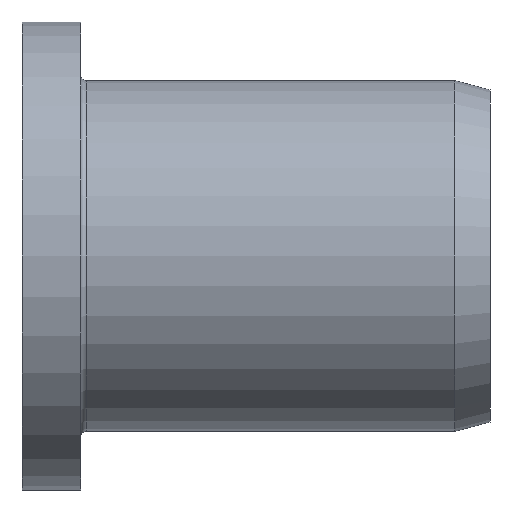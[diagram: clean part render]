
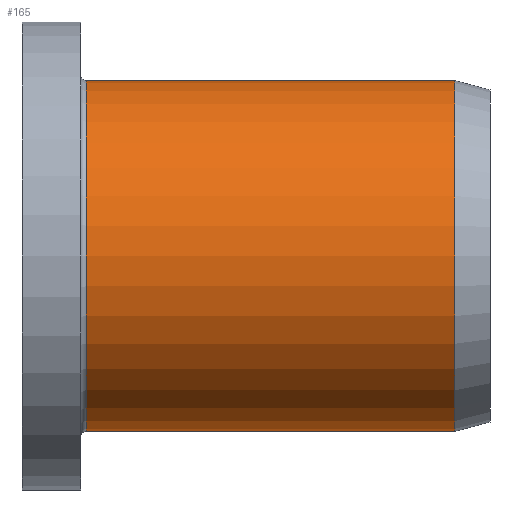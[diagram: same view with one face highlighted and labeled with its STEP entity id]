
A CAD part, front view. The second image highlights one B-rep face of the part: STEP entity #165.
In plain terms, the highlighted cylindrical face has radius 15 mm (diameter 30 mm), a full revolution.
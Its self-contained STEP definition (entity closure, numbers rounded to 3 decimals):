
#23=LINE('',#310,#27);
#27=VECTOR('',#264,15.);
#31=CYLINDRICAL_SURFACE('',#209,15.);
#39=FACE_OUTER_BOUND('',#51,.T.);
#51=EDGE_LOOP('',(#133,#134,#135,#136,#137));
#67=CIRCLE('',#207,15.);
#68=CIRCLE('',#208,15.);
#69=CIRCLE('',#210,15.);
#80=VERTEX_POINT('',#302);
#81=VERTEX_POINT('',#304);
#82=VERTEX_POINT('',#308);
#98=EDGE_CURVE('',#81,#80,#67,.T.);
#99=EDGE_CURVE('',#80,#81,#68,.T.);
#100=EDGE_CURVE('',#82,#82,#69,.T.);
#101=EDGE_CURVE('',#82,#81,#23,.T.);
#133=ORIENTED_EDGE('',*,*,#100,.F.);
#134=ORIENTED_EDGE('',*,*,#101,.T.);
#135=ORIENTED_EDGE('',*,*,#98,.T.);
#136=ORIENTED_EDGE('',*,*,#99,.T.);
#137=ORIENTED_EDGE('',*,*,#101,.F.);
#165=ADVANCED_FACE('',(#39),#31,.T.);
#207=AXIS2_PLACEMENT_3D('',#305,#256,#257);
#208=AXIS2_PLACEMENT_3D('',#306,#258,#259);
#209=AXIS2_PLACEMENT_3D('',#307,#260,#261);
#210=AXIS2_PLACEMENT_3D('',#309,#262,#263);
#256=DIRECTION('center_axis',(1.,0.,0.));
#257=DIRECTION('ref_axis',(0.,0.,-1.));
#258=DIRECTION('center_axis',(1.,0.,0.));
#259=DIRECTION('ref_axis',(0.,0.,-1.));
#260=DIRECTION('center_axis',(1.,0.,0.));
#261=DIRECTION('ref_axis',(0.,1.,0.));
#262=DIRECTION('center_axis',(1.,0.,0.));
#263=DIRECTION('ref_axis',(0.,0.,-1.));
#264=DIRECTION('',(-1.,0.,0.));
#302=CARTESIAN_POINT('',(5.5,0.,15.));
#304=CARTESIAN_POINT('',(5.5,-15.,0.));
#305=CARTESIAN_POINT('Origin',(5.5,0.,0.));
#306=CARTESIAN_POINT('Origin',(5.5,0.,0.));
#307=CARTESIAN_POINT('Origin',(21.25,0.,0.));
#308=CARTESIAN_POINT('',(37.,-15.,0.));
#309=CARTESIAN_POINT('Origin',(37.,0.,0.));
#310=CARTESIAN_POINT('',(21.25,-15.,0.));
